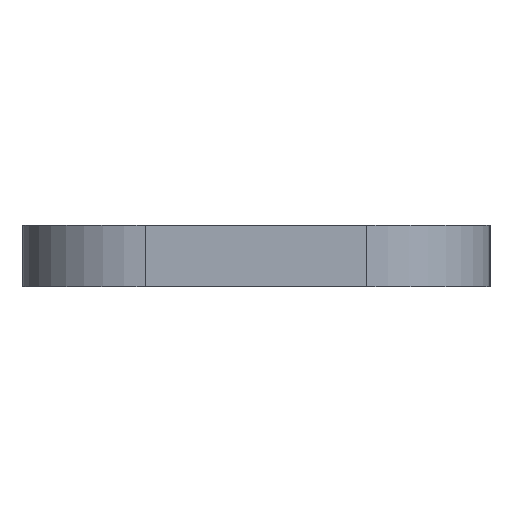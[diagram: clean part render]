
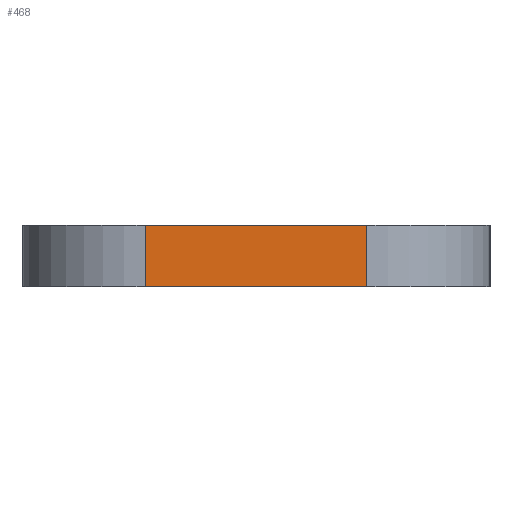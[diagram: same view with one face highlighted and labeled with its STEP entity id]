
A CAD part, left-side view. The second image highlights one B-rep face of the part: STEP entity #468.
In plain terms, the highlighted planar face has unit normal (-1, 0, 0).
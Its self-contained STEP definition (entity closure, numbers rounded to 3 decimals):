
#9 = DIRECTION ( 'NONE',  ( 0., 0., -1. ) ) ;
#10 = EDGE_LOOP ( 'NONE', ( #1394, #2216, #765, #2269 ) ) ;
#115 = LINE ( 'NONE', #900, #2169 ) ;
#249 = CARTESIAN_POINT ( 'NONE',  ( 0., 5., 0. ) ) ;
#413 = EDGE_CURVE ( 'NONE', #1599, #939, #115, .T. ) ;
#454 = EDGE_CURVE ( 'NONE', #1518, #2254, #2018, .T. ) ;
#468 = ADVANCED_FACE ( 'NONE', ( #1551 ), #1972, .F. ) ;
#581 = CARTESIAN_POINT ( 'NONE',  ( 0., 5., 2.5 ) ) ;
#630 = DIRECTION ( 'NONE',  ( 0., 0., 1. ) ) ;
#765 = ORIENTED_EDGE ( 'NONE', *, *, #413, .F. ) ;
#846 = CARTESIAN_POINT ( 'NONE',  ( 0., 14., 2.5 ) ) ;
#900 = CARTESIAN_POINT ( 'NONE',  ( 0., 19., 2.5 ) ) ;
#939 = VERTEX_POINT ( 'NONE', #581 ) ;
#1000 = CARTESIAN_POINT ( 'NONE',  ( 0., 14., 0. ) ) ;
#1085 = DIRECTION ( 'NONE',  ( 0., -1., 0. ) ) ;
#1103 = LINE ( 'NONE', #1966, #1550 ) ;
#1187 = VECTOR ( 'NONE', #1386, 1000. ) ;
#1386 = DIRECTION ( 'NONE',  ( 0., -1., 0. ) ) ;
#1394 = ORIENTED_EDGE ( 'NONE', *, *, #454, .T. ) ;
#1491 = LINE ( 'NONE', #1706, #1722 ) ;
#1518 = VERTEX_POINT ( 'NONE', #1000 ) ;
#1550 = VECTOR ( 'NONE', #630, 1000. ) ;
#1551 = FACE_OUTER_BOUND ( 'NONE', #10, .T. ) ;
#1599 = VERTEX_POINT ( 'NONE', #846 ) ;
#1706 = CARTESIAN_POINT ( 'NONE',  ( 0., 14., 2.5 ) ) ;
#1720 = DIRECTION ( 'NONE',  ( 1., 0., 0. ) ) ;
#1722 = VECTOR ( 'NONE', #1906, 1000. ) ;
#1747 = AXIS2_PLACEMENT_3D ( 'NONE', #2286, #1720, #9 ) ;
#1906 = DIRECTION ( 'NONE',  ( 0., 0., -1. ) ) ;
#1916 = CARTESIAN_POINT ( 'NONE',  ( 0., 19., 0. ) ) ;
#1966 = CARTESIAN_POINT ( 'NONE',  ( 0., 5., 2.5 ) ) ;
#1972 = PLANE ( 'NONE',  #1747 ) ;
#2018 = LINE ( 'NONE', #1916, #1187 ) ;
#2123 = EDGE_CURVE ( 'NONE', #1599, #1518, #1491, .T. ) ;
#2169 = VECTOR ( 'NONE', #1085, 1000. ) ;
#2216 = ORIENTED_EDGE ( 'NONE', *, *, #2256, .T. ) ;
#2254 = VERTEX_POINT ( 'NONE', #249 ) ;
#2256 = EDGE_CURVE ( 'NONE', #2254, #939, #1103, .T. ) ;
#2269 = ORIENTED_EDGE ( 'NONE', *, *, #2123, .T. ) ;
#2286 = CARTESIAN_POINT ( 'NONE',  ( 0., 19., 2.5 ) ) ;
